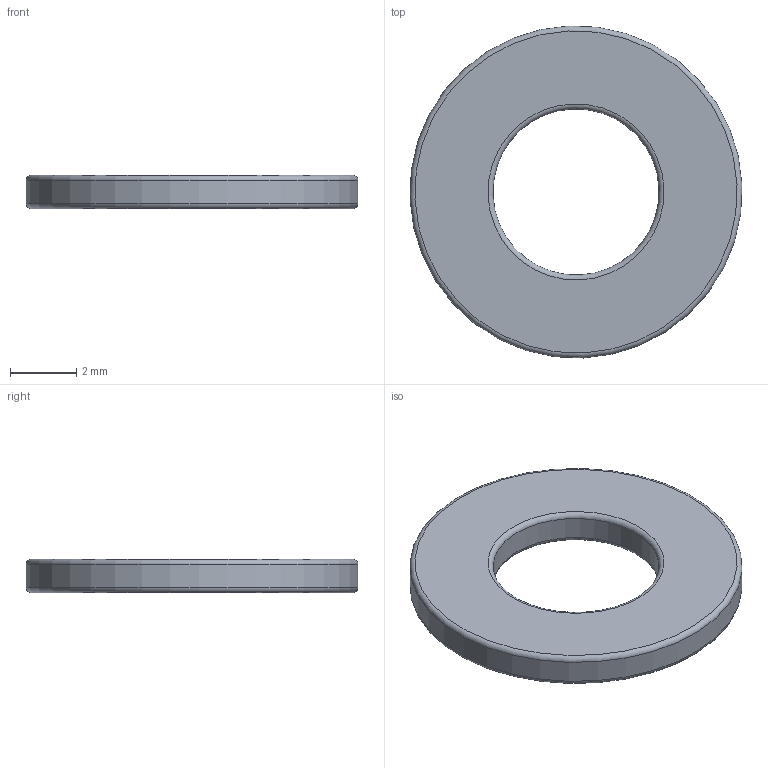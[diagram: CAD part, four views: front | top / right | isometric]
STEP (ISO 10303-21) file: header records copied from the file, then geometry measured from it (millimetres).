
FILE_DESCRIPTION(/* description */ ('STEP AP242 Edition 2','CAx-IF Rec.Pracs.---Representation and Presentation of Product Manufacturing Information (PMI)---4.0---2014-10-13','CAx-IF Rec.Pracs.---3D Tessellated Geometry---0.4---2014-09-14','2;1','CAx-IF Rec.Pracs.---User Defined Attributes---1.5---2016-08-15'),/* implementation_level */ '2;1');
FILE_NAME(/* name */ 'Final Build - Washer_14',/* time_stamp */ '2026-08-31T23:26:29Z',/* author */ (''),/* organization */ (''),/* preprocessor_version */ 'ST-DEVELOPER v20',/* originating_system */ 'ONSHAPE BY PTC INC, 1.220',/* authorisation */ ' ');
FILE_SCHEMA (('AP242_MANAGED_MODEL_BASED_3D_ENGINEERING_MIM_LF { 1 0 10303 442 3 1 4 }'));
Length unit declared in the file: metre
Products named in the file (1): Washer_14
Bounding box: 9.99 x 9.99 x 1 mm (x, y, z)
Volume: 58.4 mm3; surface area: 158.9 mm2
Topology: 1 solids, 1 shells, 8 faces, 14 edges, 8 vertices
Faces by surface type: torus 4, cylinder 2, plane 2
Full cylindrical faces by diameter (mm): 5 x1, 10 x1
Entity records: 247 total; most frequent: DIRECTION 34, CARTESIAN_POINT 25, AXIS2_PLACEMENT_3D 17, ORIENTED_EDGE 16, EDGE_LOOP 16, FACE_BOUND 16, PRESENTATION_STYLE_ASSIGNMENT 9, SURFACE_STYLE_USAGE 9
